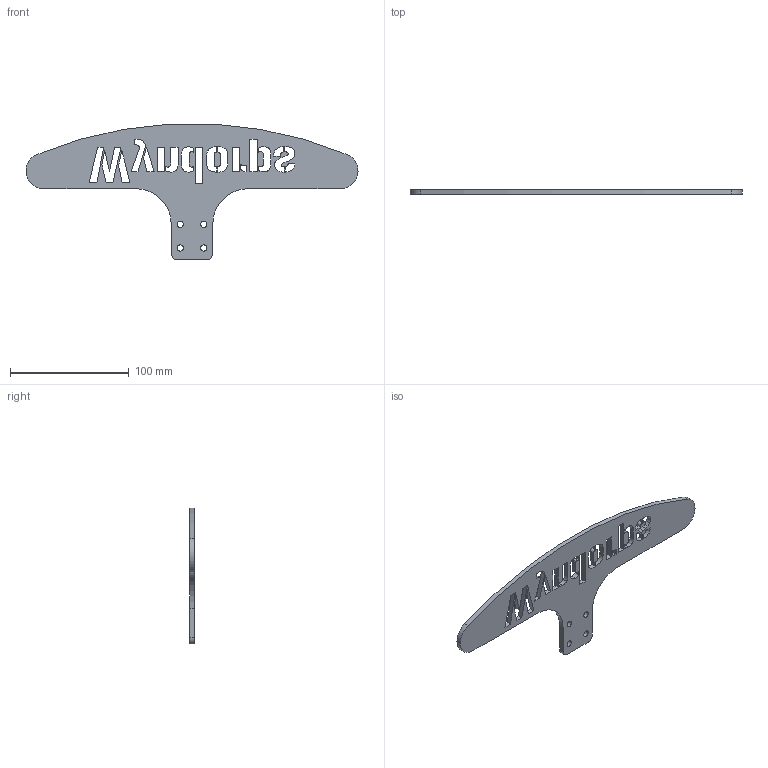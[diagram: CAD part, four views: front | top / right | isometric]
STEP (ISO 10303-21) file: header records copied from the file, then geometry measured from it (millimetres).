
FILE_DESCRIPTION((''),'2;1');
FILE_NAME('0000187208','2024-01-01T18:30:33',('Wyndorps'),(''),'CREO PARAMETRIC BY PTC INC, 2022484','CREO PARAMETRIC BY PTC INC, 2022484','');
FILE_SCHEMA(('CONFIG_CONTROL_DESIGN'));
Length unit declared in the file: millimetre
Products named in the file (1): 0000187208
Bounding box: 279.99 x 4 x 114.46 mm (x, y, z)
Volume: 49958.9 mm3; surface area: 32250.1 mm2
Topology: 1 solids, 1 shells, 153 faces, 453 edges, 302 vertices
Faces by surface type: plane 76, extrusion 62, cylinder 15
Entity records: 5509 total; most frequent: CARTESIAN_POINT 1502, ORIENTED_EDGE 906, DIRECTION 603, EDGE_CURVE 453, VECTOR 361, VERTEX_POINT 302, LINE 299, EDGE_LOOP 197
